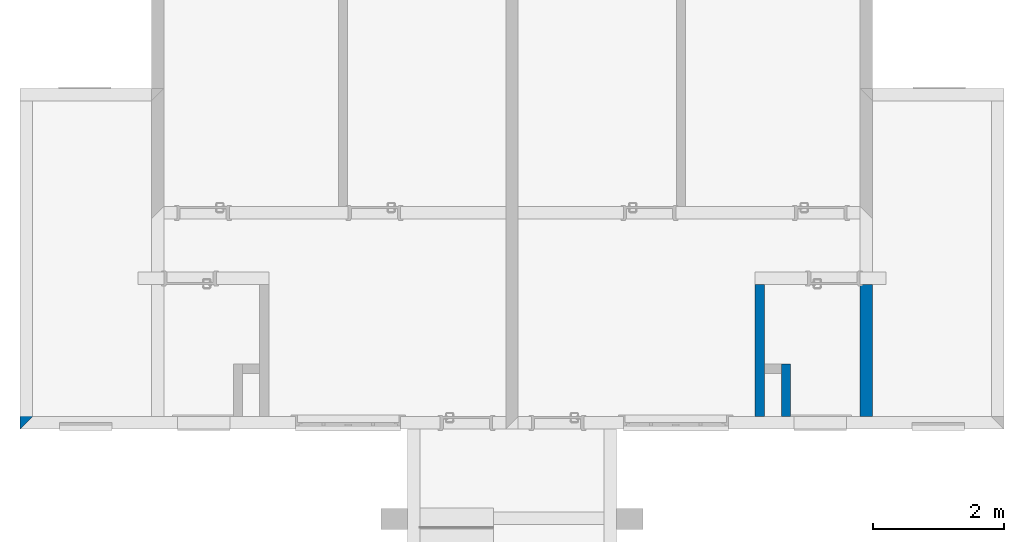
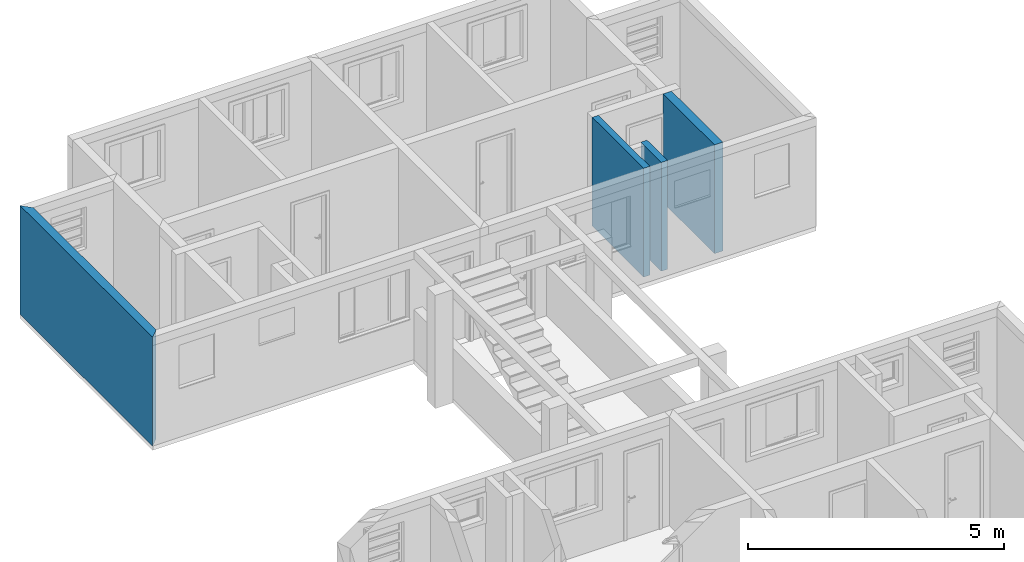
# One storey, part 31 of 47: 4 walls.
"""IFC2X3 building model written with IfcOpenShell, lengths in millimetres."""

from ifc_helpers import new_model, entity, si_unit, converted_unit, derived_unit, money_unit, direction, frame, origin_with_axes, place, context, subcontext, project, spatial, polyline, outline, extrude, material, layer, layer_set, layer_usage, type_object, element, save


model = new_model("IFC2X3")

# Units and contexts
model_context = context("Model", 3, precision=0.01, world=origin_with_axes(), true_north=direction((0.0, 1.0)))
body_context = subcontext(model_context, "Body", "Model", "MODEL_VIEW")
ifc_project = project(units=[si_unit("LENGTHUNIT", "METRE", prefix="MILLI"), si_unit("AREAUNIT", "SQUARE_METRE"), si_unit("VOLUMEUNIT", "CUBIC_METRE"), converted_unit("PLANEANGLEUNIT", "DEGREE", entity("IfcPlaneAngleMeasure", 0.0174532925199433), si_unit("PLANEANGLEUNIT", "RADIAN"), dimensions=[0, 0, 0, 0, 0, 0, 0]), money_unit("USD"), converted_unit("TIMEUNIT", "Year", entity("IfcTimeMeasure", 31557600.0), si_unit("TIMEUNIT", "SECOND"), dimensions=[0, 0, 1, 0, 0, 0, 0]), si_unit("MASSUNIT", "GRAM", prefix="KILO"), si_unit("THERMODYNAMICTEMPERATUREUNIT", "DEGREE_CELSIUS"), si_unit("LUMINOUSINTENSITYUNIT", "LUMEN"), si_unit("ENERGYUNIT", "JOULE", prefix="MEGA"), derived_unit("THERMALCONDUCTANCEUNIT", [(si_unit("POWERUNIT", "WATT"), 1), (si_unit("LENGTHUNIT", "METRE"), -1), (si_unit("THERMODYNAMICTEMPERATUREUNIT", "KELVIN"), -1)]), derived_unit("SPECIFICHEATCAPACITYUNIT", [(si_unit("ENERGYUNIT", "JOULE"), 1), (si_unit("MASSUNIT", "GRAM", prefix="KILO"), -1), (si_unit("THERMODYNAMICTEMPERATUREUNIT", "KELVIN"), -1)]), derived_unit("MASSDENSITYUNIT", [(si_unit("MASSUNIT", "GRAM", prefix="KILO"), 1), (si_unit("VOLUMEUNIT", "CUBIC_METRE"), -1)])], contexts=[model_context])

# Site, building, storey
site_placement = place(None, origin_with_axes())
site = spatial("IfcSite", under=ifc_project, at=site_placement, Name="Local", CompositionType="ELEMENT")
building_placement = place(site_placement, origin_with_axes())
building = spatial("IfcBuilding", under=site, at=building_placement, Name="Construção", CompositionType="ELEMENT")
storey_placement = place(building_placement, origin_with_axes())
storey = spatial("IfcBuildingStorey", under=building, at=storey_placement, Name="Pavimento Tipo", CompositionType="ELEMENT", Elevation=0.0)

# Walls
ifc_material_1 = material(Name="Concreto - Estrutural")
ifc_layer_1 = layer(ifc_material_1, 190.0, ventilated="UNKNOWN")
ifc_layer_set_1 = layer_set([ifc_layer_1], Name="Concreto - Estrutural 190")
ifc_layer_usage_1 = layer_usage(ifc_layer_set_1, "AXIS2", "NEGATIVE", 190.0)
wall_type_1 = type_object("IfcWallType", Name="Concreto - Estrutural 190", PredefinedType="NOTDEFINED")
wall_1_placement = place(storey_placement, frame((6442.566997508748, 12586.98141771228, 0.0), z_axis=(0.0, 0.0, 1.0), x_axis=(0.0, 1.0, 0.0)))
element("IfcWallStandardCase", 1, at=wall_1_placement, inside=storey, type_object=wall_type_1, material=ifc_layer_usage_1, Name="Apartamento 1 - Parede-091", context=body_context, shape_type="SweptSolid", body=[
    extrude(outline(polyline([(0.0, 0.0), (2010.000000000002, 0.0), (2010.000000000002, 190.0000000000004), (0.0, 190.0000000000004), (0.0, 0.0)])), origin_with_axes(), (0.0, 0.0, 1.0), 2600.0),
])
ifc_layer_usage_2 = layer_usage(ifc_layer_set_1, "AXIS2", "POSITIVE", 0.0)
wall_2_placement = place(storey_placement, frame((-6547.433002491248, 17586.98141771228, 0.0), z_axis=(0.0, 0.0, 1.0), x_axis=(0.0, -1.0, 0.0)))
element("IfcWallStandardCase", 2, at=wall_2_placement, inside=storey, type_object=wall_type_1, material=ifc_layer_usage_2, Name="Apartamento 2 - Parede-088", context=body_context, shape_type="SweptSolid", body=[
    extrude(outline(polyline([(0.0, 0.0), (5189.999999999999, 0.0), (5000.0, 190.0000000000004), (190.0000000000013, 190.0000000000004), (0.0, 0.0)])), origin_with_axes(), (0.0, 0.0, 1.0), 2600.0),
])
ifc_material_2 = material(Name="Concreto")
ifc_layer_2 = layer(ifc_material_2, 140.0, ventilated="UNKNOWN")
ifc_layer_set_2 = layer_set([ifc_layer_2], Name="Concreto 140")
ifc_layer_usage_3 = layer_usage(ifc_layer_set_2, "AXIS2", "NEGATIVE", 140.0)
wall_type_2 = type_object("IfcWallType", Name="Concreto 140", PredefinedType="NOTDEFINED")
wall_3_placement = place(storey_placement, frame((4792.56699750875, 12586.98141771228, 0.0), z_axis=(0.0, 0.0, 1.0), x_axis=(0.0, 1.0, 0.0)))
element("IfcWallStandardCase", 3, at=wall_3_placement, inside=storey, type_object=wall_type_2, material=ifc_layer_usage_3, Name="Apartamento 1 - Parede-094", context=body_context, shape_type="SweptSolid", body=[
    extrude(outline(polyline([(0.0, 0.0), (2010.000000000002, 0.0), (2010.000000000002, 139.9999999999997), (0.0, 139.9999999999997), (0.0, 0.0)])), origin_with_axes(), (0.0, 0.0, 1.0), 2600.0),
])
ifc_layer_usage_4 = layer_usage(ifc_layer_set_2, "AXIS2", "NEGATIVE", 140.0)
wall_4_placement = place(storey_placement, frame((5192.566997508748, 12586.98141771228, 0.0), z_axis=(0.0, 0.0, 1.0), x_axis=(0.0, 1.0, 0.0)))
element("IfcWallStandardCase", 4, at=wall_4_placement, inside=storey, type_object=wall_type_2, material=ifc_layer_usage_4, Name="Apartamento 1 - Parede-096", context=body_context, shape_type="SweptSolid", body=[
    extrude(outline(polyline([(0.0, 0.0), (800.0000000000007, 0.0), (800.0000000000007, 139.9999999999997), (0.0, 139.9999999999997), (0.0, 0.0)])), origin_with_axes(), (0.0, 0.0, 1.0), 2600.0),
])

save(model, "model.ifc")
